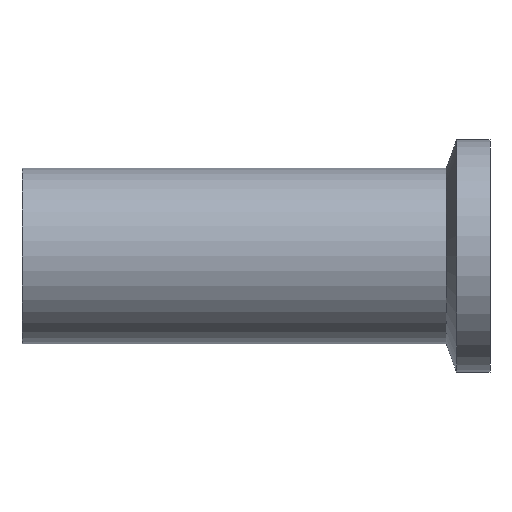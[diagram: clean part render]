
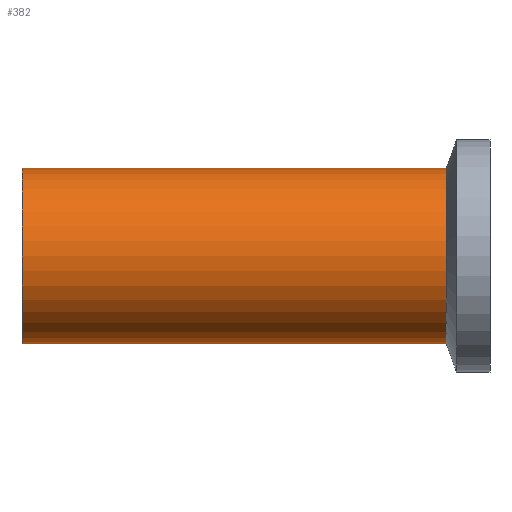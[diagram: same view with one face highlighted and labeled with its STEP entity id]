
A CAD part, left-side view. The second image highlights one B-rep face of the part: STEP entity #382.
In plain terms, the highlighted cylindrical face has radius 9.525 mm (diameter 19.05 mm), a partial arc.
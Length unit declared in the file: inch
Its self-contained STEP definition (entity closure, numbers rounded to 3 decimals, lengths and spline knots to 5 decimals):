
#13 = ORIENTED_EDGE ( 'NONE', *, *, #281, .T. ) ;
#15 = CARTESIAN_POINT ( 'NONE',  ( 0., 2., 0.375 ) ) ;
#36 = DIRECTION ( 'NONE',  ( 0., -1., 0. ) ) ;
#38 = AXIS2_PLACEMENT_3D ( 'NONE', #117, #158, #215 ) ;
#93 = DIRECTION ( 'NONE',  ( 0., -1., 0. ) ) ;
#117 = CARTESIAN_POINT ( 'NONE',  ( 0., 0., 0. ) ) ;
#123 = EDGE_CURVE ( 'NONE', #340, #424, #274, .T. ) ;
#143 = AXIS2_PLACEMENT_3D ( 'NONE', #285, #36, #516 ) ;
#145 = DIRECTION ( 'NONE',  ( 0., -1., 0. ) ) ;
#155 = VECTOR ( 'NONE', #331, 39.37008 ) ;
#158 = DIRECTION ( 'NONE',  ( 0., -1., 0. ) ) ;
#163 = LINE ( 'NONE', #231, #155 ) ;
#192 = CYLINDRICAL_SURFACE ( 'NONE', #38, 0.375 ) ;
#201 = FACE_OUTER_BOUND ( 'NONE', #399, .T. ) ;
#215 = DIRECTION ( 'NONE',  ( 0., 0., -1. ) ) ;
#221 = CARTESIAN_POINT ( 'NONE',  ( 0., 0.18704, -0.375 ) ) ;
#231 = CARTESIAN_POINT ( 'NONE',  ( 0., 0., 0.375 ) ) ;
#233 = EDGE_CURVE ( 'NONE', #435, #405, #263, .T. ) ;
#235 = LINE ( 'NONE', #364, #241 ) ;
#241 = VECTOR ( 'NONE', #93, 39.37008 ) ;
#263 = CIRCLE ( 'NONE', #523, 0.375 ) ;
#274 = CIRCLE ( 'NONE', #143, 0.375 ) ;
#281 = EDGE_CURVE ( 'NONE', #424, #405, #235, .T. ) ;
#285 = CARTESIAN_POINT ( 'NONE',  ( 0., 2., 0. ) ) ;
#331 = DIRECTION ( 'NONE',  ( 0., -1., 0. ) ) ;
#340 = VERTEX_POINT ( 'NONE', #15 ) ;
#364 = CARTESIAN_POINT ( 'NONE',  ( 0., 0., -0.375 ) ) ;
#382 = ADVANCED_FACE ( 'NONE', ( #201 ), #192, .T. ) ;
#399 = EDGE_LOOP ( 'NONE', ( #504, #498, #13, #526 ) ) ;
#405 = VERTEX_POINT ( 'NONE', #221 ) ;
#424 = VERTEX_POINT ( 'NONE', #455 ) ;
#432 = CARTESIAN_POINT ( 'NONE',  ( 0., 0.18704, 0. ) ) ;
#435 = VERTEX_POINT ( 'NONE', #530 ) ;
#455 = CARTESIAN_POINT ( 'NONE',  ( 0., 2., -0.375 ) ) ;
#479 = DIRECTION ( 'NONE',  ( 0., 0., -1. ) ) ;
#498 = ORIENTED_EDGE ( 'NONE', *, *, #123, .T. ) ;
#504 = ORIENTED_EDGE ( 'NONE', *, *, #505, .F. ) ;
#505 = EDGE_CURVE ( 'NONE', #340, #435, #163, .T. ) ;
#516 = DIRECTION ( 'NONE',  ( 0., 0., -1. ) ) ;
#523 = AXIS2_PLACEMENT_3D ( 'NONE', #432, #145, #479 ) ;
#526 = ORIENTED_EDGE ( 'NONE', *, *, #233, .F. ) ;
#530 = CARTESIAN_POINT ( 'NONE',  ( 0., 0.18704, 0.375 ) ) ;
